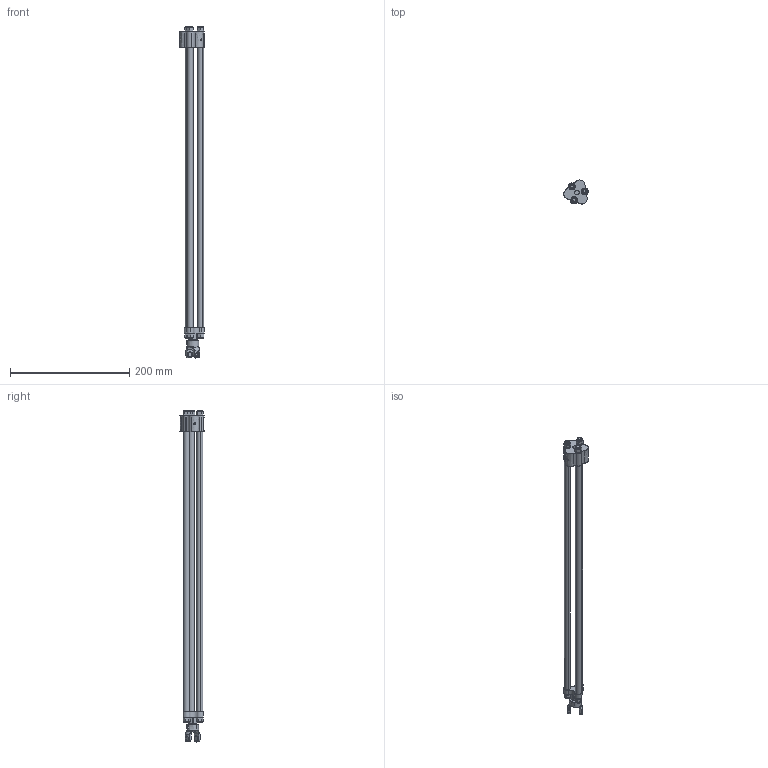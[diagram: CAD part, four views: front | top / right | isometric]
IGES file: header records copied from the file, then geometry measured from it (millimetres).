
Start section: SolidWorks IGES file using analytic representation for surfaces
Global section: file name: C:\Users\SELUHAA\Desktop\Work items\545792\IGES\IRB360_X-800-WD-4D_rev03_IGES_J\IRB360_X-800-WD-4D_rev03_ML_CAD.IGS; native system: SolidWorks 2022; preprocessor: SolidWorks 2022; author: SELUHAA; date: 231128.141043; units: millimetre
Bounding box: 40.67 x 40.23 x 555.8 mm (x, y, z)
Surface area: 66515.3 mm2 (no closed solid volume)
Topology: 0 solids, 0 shells, 305 faces, 5639 edges, 5636 vertices
Faces by surface type: revolution 183, bspline 122
